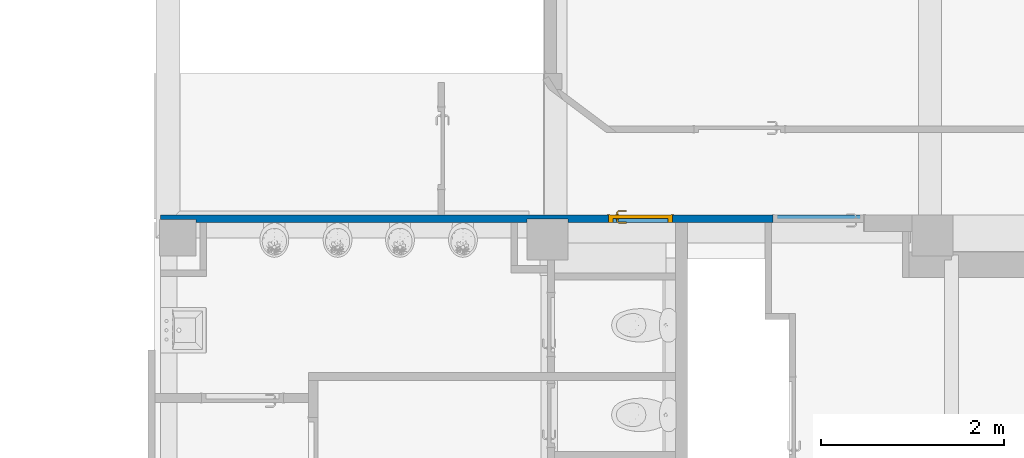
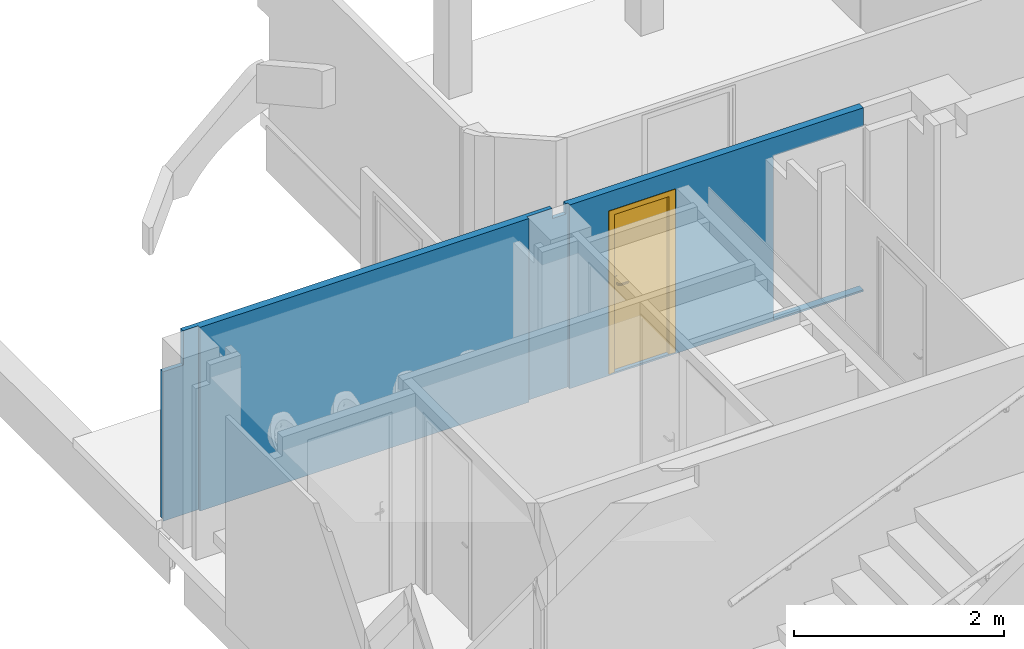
# One storey, part 17 of 32: 1 door, 1 wall, 2 openings.
"""IFC4 building model written with IfcOpenShell, lengths in metres."""

from ifc_helpers import new_model, entity, si_unit, converted_unit, derived_unit, direction, frame, origin, place, context, subcontext, project, spatial, indexed_curve, outline, extrude, polygons, source, transform, mapped, material, material_list, layer, layer_set, constituent, constituent_set, type_object, type_shapes, element, fill, save


model = new_model("IFC4")

# Units and contexts
model_context = context("Model", 3, precision=1e-05, world=origin(), true_north=direction((6.12303176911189e-17, 1.0)))
body_context = subcontext(model_context, "Body", "Model", "MODEL_VIEW")
ifc_project = project(units=[si_unit("LENGTHUNIT", "METRE"), si_unit("AREAUNIT", "SQUARE_METRE"), si_unit("VOLUMEUNIT", "CUBIC_METRE"), converted_unit("PLANEANGLEUNIT", "DEGREE", entity("IfcRatioMeasure", 0.0174532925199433), si_unit("PLANEANGLEUNIT", "RADIAN"), dimensions=[0, 0, 0, 0, 0, 0, 0]), si_unit("MASSUNIT", "GRAM", prefix="KILO"), derived_unit("MASSDENSITYUNIT", [(si_unit("MASSUNIT", "GRAM", prefix="KILO"), 1), (si_unit("LENGTHUNIT", "METRE"), -3)]), derived_unit("MOMENTOFINERTIAUNIT", [(si_unit("LENGTHUNIT", "METRE"), 4)]), si_unit("TIMEUNIT", "SECOND"), si_unit("FREQUENCYUNIT", "HERTZ"), si_unit("THERMODYNAMICTEMPERATUREUNIT", "DEGREE_CELSIUS"), derived_unit("THERMALTRANSMITTANCEUNIT", [(si_unit("MASSUNIT", "GRAM", prefix="KILO"), 1), (si_unit("THERMODYNAMICTEMPERATUREUNIT", "KELVIN"), -1), (si_unit("TIMEUNIT", "SECOND"), -3)]), derived_unit("VOLUMETRICFLOWRATEUNIT", [(si_unit("LENGTHUNIT", "METRE"), 3), (si_unit("TIMEUNIT", "SECOND"), -1)]), si_unit("ELECTRICCURRENTUNIT", "AMPERE"), si_unit("ELECTRICVOLTAGEUNIT", "VOLT"), si_unit("POWERUNIT", "WATT"), si_unit("FORCEUNIT", "NEWTON", prefix="KILO"), si_unit("ILLUMINANCEUNIT", "LUX"), si_unit("LUMINOUSFLUXUNIT", "LUMEN"), si_unit("LUMINOUSINTENSITYUNIT", "CANDELA"), derived_unit("USERDEFINED", [(si_unit("MASSUNIT", "GRAM", prefix="KILO"), -1), (si_unit("LENGTHUNIT", "METRE"), -2), (si_unit("TIMEUNIT", "SECOND"), 3), (si_unit("LUMINOUSFLUXUNIT", "LUMEN"), 1)]), derived_unit("LINEARVELOCITYUNIT", [(si_unit("LENGTHUNIT", "METRE"), 1), (si_unit("TIMEUNIT", "SECOND"), -1)]), si_unit("PRESSUREUNIT", "PASCAL"), derived_unit("USERDEFINED", [(si_unit("LENGTHUNIT", "METRE"), -2), (si_unit("MASSUNIT", "GRAM", prefix="KILO"), 1), (si_unit("TIMEUNIT", "SECOND"), -2)]), derived_unit("LINEARFORCEUNIT", [(si_unit("MASSUNIT", "GRAM", prefix="KILO"), 1), (si_unit("LENGTHUNIT", "METRE"), 1), (si_unit("TIMEUNIT", "SECOND"), -2), (si_unit("LENGTHUNIT", "METRE"), -1)]), derived_unit("PLANARFORCEUNIT", [(si_unit("MASSUNIT", "GRAM", prefix="KILO"), 1), (si_unit("LENGTHUNIT", "METRE"), 1), (si_unit("TIMEUNIT", "SECOND"), -2), (si_unit("LENGTHUNIT", "METRE"), -2)])], contexts=[model_context])

# Site, building, storey
site_placement = place(None, origin())
site = spatial("IfcSite", under=ifc_project, at=site_placement, Name="Default", CompositionType="ELEMENT")
building_placement = place(site_placement, origin())
building = spatial("IfcBuilding", under=site, at=building_placement, Name="HOTEL CONSULAIRE BOULOGNE SUR MER", CompositionType="ELEMENT")
storey_placement = place(building_placement, frame((0.0, 0.0, -2.70343668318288)))
storey = spatial("IfcBuildingStorey", under=building, at=storey_placement, Name="SS1", CompositionType="ELEMENT", Elevation=-2.70343668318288)

# Wall, openings, door
ifc_material_1 = material(Name="Mur par défaut", Category="Divers")
ifc_layer = layer(ifc_material_1, 0.08, Name="Mur par défaut", Category="Divers")
ifc_layer_set = layer_set([ifc_layer], Name="Mur de base:Générique - Int. 80")
wall_type = type_object("IfcWallType", Name="Mur de base:Générique - Int. 80", PredefinedType="NOTDEFINED", material=ifc_layer_set)
wall_placement = place(storey_placement, frame((2.23001143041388, -15.3856940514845, 0.293990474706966), z_axis=(0.0, 0.0, 1.0), x_axis=(-1.0, 0.0, 0.0)))
wall = element("IfcWall", 1, at=wall_placement, inside=storey, type_object=wall_type, material=ifc_layer_set, Name="Mur de base:Générique - Int. 80", ObjectType="Mur de base:Générique - Int. 80", PredefinedType="NOTDEFINED", context=body_context, shape_type="Tessellation", body=[
    polygons([(1.26909234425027e-15, 0.0399999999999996, 1.92500952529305), (1.86225214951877e-16, 0.0399999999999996, 2.13944620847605), (3.23383465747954, 0.0400000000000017, 2.13944620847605), (3.23383465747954, 0.0400000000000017, 0.0), (9.98375561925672e-16, 0.0399999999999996, 0.0), (9.98375561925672e-16, 0.0399999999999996, 0.0200095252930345), (0.987999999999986, 0.0400000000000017, 0.0200095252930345), (0.987999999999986, 0.0400000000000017, 1.92500952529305), (2.08923862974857, 0.0400000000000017, 0.0200095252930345), (2.78923862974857, 0.0400000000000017, 0.0200095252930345), (2.78923862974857, 0.0400000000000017, 1.90500952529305), (2.08923862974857, 0.0400000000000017, 1.90500952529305), (4.59035227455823e-16, -0.0399999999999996, 2.13944620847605), (3.25558728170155, -0.0399999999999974, 2.13944620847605), (3.25558728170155, 0.00521575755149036, 2.13944620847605), (3.23383465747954, 0.00521575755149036, 2.13944620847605), (1.00046879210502e-15, -0.0399999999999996, 1.92500952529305), (0.987999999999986, -0.0399999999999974, 1.92500952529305), (0.987999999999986, -0.0399999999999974, 0.0200095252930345), (1.00046879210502e-15, -0.0399999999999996, 0.0200095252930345), (7.29752009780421e-16, -0.0399999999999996, 0.0), (3.4894349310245, -0.0399999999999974, 0.0), (3.4894349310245, -0.0399999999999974, 0.0200000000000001), (4.58495944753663, -0.0399999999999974, 0.0200000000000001), (4.65495944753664, -0.0399999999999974, 0.0200000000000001), (7.692, -0.0399999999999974, 0.0200000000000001), (7.692, -0.0399999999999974, 1.73944620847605), (7.47034894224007, -0.0399999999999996, 1.73944620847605), (7.47034894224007, -0.0399999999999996, 2.13944620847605), (4.65495944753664, -0.0399999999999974, 2.13944620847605), (4.58495944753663, -0.0399999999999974, 2.13944620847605), (3.40558728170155, -0.0399999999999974, 2.13944620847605), (3.40558728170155, -0.0399999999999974, 2.01944620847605), (3.25558728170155, -0.0399999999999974, 2.01944620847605), (2.78923862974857, -0.0399999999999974, 0.0200095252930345), (2.08923862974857, -0.0399999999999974, 0.0200095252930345), (2.08923862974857, -0.0399999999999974, 1.90500952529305), (2.78923862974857, -0.0399999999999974, 1.90500952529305), (7.30551957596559, 0.0400000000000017, 2.13944620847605), (7.30551957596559, 0.0400000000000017, 0.0), (3.68383465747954, 0.0399999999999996, 0.0), (3.68383465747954, 0.0399999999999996, 2.13944620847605), (3.23383465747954, 0.00521575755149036, 0.0), (3.68383465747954, 0.00521575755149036, 0.0), (7.30551957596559, 0.00957223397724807, 0.0), (7.692, 0.00957223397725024, 0.0), (7.692, 0.00492898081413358, 0.0), (3.4894349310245, 0.00492898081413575, 0.0), (7.692, 0.00957223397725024, 1.73944620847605), (7.692, 0.00492898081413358, 0.0200000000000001), (7.30551957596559, 0.00957223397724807, 2.13944620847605), (3.68383465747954, 0.00521575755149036, 2.13944620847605), (3.40558728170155, 0.00521575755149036, 2.13944620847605), (7.47034894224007, 0.00957223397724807, 2.13944620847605), (7.47034894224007, 0.00957223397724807, 1.73944620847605), (3.23383465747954, 0.00521575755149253, 0.0200000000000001), (3.25558728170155, 0.00521575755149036, 2.01944620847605), (3.40558728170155, 0.00521575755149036, 2.01944620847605), (3.4894349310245, 0.00492898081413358, 0.0200000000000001)], [[[4, 5, 6, 7, 8, 1, 2, 3], [10, 11, 12, 9]], [[39, 40, 41, 42]], [[51, 54, 55, 49, 46, 45]], [[57, 58, 53, 52, 44, 43, 56, 16, 15]], [[13, 14, 15, 16, 3, 2]], [[42, 52, 53, 32, 31, 30, 29, 54, 51, 39]], [[36, 35, 10, 9]], [[6, 20, 19, 7]], [[55, 28, 27, 49]], [[58, 57, 34, 33]], [[17, 13, 2, 1]], [[21, 20, 6, 5]], [[35, 38, 11, 10]], [[7, 19, 18, 8]], [[41, 44, 52, 42]], [[53, 58, 33, 32]], [[21, 22, 23, 24, 25, 26, 27, 28, 29, 30, 31, 32, 33, 34, 14, 13, 17, 18, 19, 20], [36, 37, 38, 35]], [[59, 48, 47, 50]], [[21, 5, 4, 43, 44, 41, 40, 45, 46, 47, 48, 22]], [[38, 37, 12, 11]], [[8, 18, 17, 1]], [[25, 24, 23, 59, 50, 26]], [[27, 26, 50, 47, 46, 49]], [[37, 36, 9, 12]], [[55, 54, 29, 28]], [[40, 39, 51, 45]], [[56, 43, 4, 3, 16]], [[15, 14, 34, 57]], [[23, 22, 48, 59]]], closed=True),
])
opening_1_placement = place(wall_placement, frame((2.78923862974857, 0.0399999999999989, 0.0200095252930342)))
opening_1 = element("IfcOpeningElement", 2, at=opening_1_placement, cuts=wall, Name="Int. Simple:PP (0.63m x 1.85m):1", ObjectType="Opening", PredefinedType="OPENING", context=body_context, shape_type="SweptSolid", body=[
    extrude(outline(indexed_curve([(0.0, 0.699999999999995), (0.0, 0.0), (1.88500000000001, 0.0), (1.88500000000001, 0.699999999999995), (0.0, 0.699999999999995)], self_intersect=False)), frame((0.0, 0.0, 0.0), z_axis=(0.0, -1.0, 0.0), x_axis=(0.0, 0.0, 1.0)), (0.0, 0.0, 1.0), 0.08),
])
opening_2_placement = place(wall_placement, frame((-0.0120000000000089, -0.039999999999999, 0.0200095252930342)))
element("IfcOpeningElement", 3, at=opening_2_placement, cuts=wall, Name="Int. Simple:0.93x1.87:1", ObjectType="Opening", PredefinedType="OPENING", context=body_context, shape_type="SweptSolid", body=[
    extrude(outline(indexed_curve([(0.0, 0.999999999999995), (0.0, -3.14457543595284e-30), (1.90500000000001, -3.14457543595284e-30), (1.90500000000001, 0.999999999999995), (0.0, 0.999999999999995)], self_intersect=False)), frame((0.0, 0.0, 0.0), z_axis=(0.0, 1.0, 0.0), x_axis=(0.0, 0.0, 1.0)), (0.0, 0.0, 1.0), 0.08),
])
ifc_material_2 = material(Name="Finition Peinture - Blanc satiné", Category="Peinture")
ifc_constituent_1 = constituent(ifc_material_2, Name="Finition Peinture - Blanc satiné", Category="Matériaux")
ifc_material_3 = material(Name="Bois - Panneau de porte", Category="Bois")
ifc_constituent_2 = constituent(ifc_material_3, Name="Bois - Panneau de porte", Category="Matériaux")
ifc_material_4 = material(Name="Bois - Cadre de porte", Category="Bois")
ifc_constituent_3 = constituent(ifc_material_4, Name="Bois - Cadre de porte", Category="Matériaux")
ifc_constituent_set = constituent_set(constituents=[ifc_constituent_1, ifc_constituent_2, ifc_constituent_3], Name="MaterialConstituentSet")
ifc_material_list = material_list([ifc_material_4, ifc_material_2, ifc_material_4, ifc_material_3])
door_type = type_object("IfcDoorType", Name="Int. Simple:PP (0.63m x 1.85m)", OperationType="NOTDEFINED", PredefinedType="DOOR", material=ifc_material_list)
shared_shape = source(origin(), body_context, "Body", "Tessellation", [
    polygons([(0.695000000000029, -0.00500000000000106, 0.870000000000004), (0.695000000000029, -0.00500000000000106, 1.08), (0.68535276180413, -0.00500000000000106, 1.08399601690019), (0.675000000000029, -0.00500000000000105, 1.08535898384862), (0.664647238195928, -0.00500000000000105, 1.08399601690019), (0.65500000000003, -0.00500000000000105, 1.08), (0.655000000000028, -0.00500000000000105, 0.870000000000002), (0.664647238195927, -0.00500000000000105, 0.866003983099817), (0.675000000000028, -0.00500000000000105, 0.86464101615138), (0.685352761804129, -0.00500000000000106, 0.866003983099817), (0.695000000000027, -1.06594733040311e-15, 0.870000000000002), (0.685352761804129, -1.06594733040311e-15, 0.866003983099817), (0.675000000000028, -1.05748743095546e-15, 0.86464101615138), (0.664647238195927, -1.05748743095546e-15, 0.866003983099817), (0.655000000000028, -1.04902753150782e-15, 0.870000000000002), (0.655000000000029, -1.04902753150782e-15, 1.08), (0.664647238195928, -1.05748743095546e-15, 1.08399601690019), (0.675000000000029, -1.05748743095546e-15, 1.08535898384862), (0.68535276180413, -1.06594733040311e-15, 1.08399601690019), (0.695000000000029, -1.06594733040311e-15, 1.08)], [[[1, 2, 3, 4, 5, 6, 7, 8, 9, 10]], [[20, 11, 12, 13, 14, 15, 16, 17, 18, 19]], [[10, 12, 11, 1]], [[9, 13, 12, 10]], [[8, 14, 13, 9]], [[8, 7, 15, 14]], [[15, 7, 6, 16]], [[5, 17, 16, 6]], [[4, 18, 17, 5]], [[3, 19, 18, 4]], [[3, 2, 20, 19]], [[11, 20, 2, 1]]], closed=True),
    polygons([(0.65500000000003, 0.0399999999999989, 1.08), (0.655000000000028, 0.0399999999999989, 0.870000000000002), (0.664647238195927, 0.0399999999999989, 0.866003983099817), (0.675000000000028, 0.0399999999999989, 0.86464101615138), (0.685352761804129, 0.0399999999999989, 0.866003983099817), (0.695000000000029, 0.0399999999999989, 0.870000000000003), (0.695000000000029, 0.0399999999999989, 1.08), (0.68535276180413, 0.0399999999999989, 1.08399601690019), (0.675000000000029, 0.0399999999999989, 1.08535898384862), (0.664647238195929, 0.0399999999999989, 1.08399601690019), (0.65500000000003, 0.0449999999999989, 1.08), (0.664647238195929, 0.0449999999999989, 1.08399601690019), (0.675000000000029, 0.0449999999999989, 1.08535898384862), (0.68535276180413, 0.0449999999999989, 1.08399601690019), (0.695000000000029, 0.0449999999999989, 1.08), (0.695000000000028, 0.0449999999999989, 0.870000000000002), (0.685352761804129, 0.0449999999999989, 0.866003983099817), (0.675000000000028, 0.0449999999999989, 0.86464101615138), (0.664647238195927, 0.0449999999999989, 0.866003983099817), (0.655000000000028, 0.0449999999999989, 0.870000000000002)], [[[6, 7, 8, 9, 10, 1, 2, 3, 4, 5]], [[13, 14, 15, 16, 17, 18, 19, 20, 11, 12]], [[10, 12, 11, 1]], [[9, 13, 12, 10]], [[8, 14, 13, 9]], [[8, 7, 15, 14]], [[16, 15, 7, 6]], [[5, 17, 16, 6]], [[4, 18, 17, 5]], [[3, 19, 18, 4]], [[3, 2, 20, 19]], [[20, 2, 1, 11]]], closed=True),
    polygons([(0.681000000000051, -0.00500000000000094, 1.00699999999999), (0.68100000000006, -0.00500000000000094, 0.992999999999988), (0.677025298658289, -0.00500000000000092, 0.99221955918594), (0.67297470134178, -0.0050000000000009, 0.992219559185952), (0.669000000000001, -0.00500000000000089, 0.993000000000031), (0.669000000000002, -0.00500000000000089, 1.007), (0.672974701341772, -0.0050000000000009, 1.00778044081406), (0.677025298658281, -0.00500000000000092, 1.00778044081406), (0.669000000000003, -0.0276803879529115, 1.007), (0.672974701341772, -0.0293267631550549, 1.00778044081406), (0.677025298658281, -0.0310045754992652, 1.00778044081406), (0.681000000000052, -0.0326509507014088, 1.007), (0.669000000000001, -0.0276803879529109, 0.993000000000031), (0.68100000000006, -0.0326509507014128, 0.992999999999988), (0.677025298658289, -0.0310045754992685, 0.99221955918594), (0.67297470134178, -0.0293267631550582, 0.992219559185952), (0.657652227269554, -0.0390281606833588, 1.007), (0.659298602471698, -0.0430028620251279, 1.00778044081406), (0.660976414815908, -0.0470534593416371, 1.00778044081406), (0.662622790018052, -0.0510281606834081, 1.007), (0.657652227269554, -0.0390281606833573, 0.993000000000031), (0.662622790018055, -0.0510281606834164, 0.992999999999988), (0.660976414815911, -0.047053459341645, 0.99221955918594), (0.659298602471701, -0.0430028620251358, 0.992219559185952), (0.574981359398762, -0.0510281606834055, 1.007), (0.574981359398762, -0.0470534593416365, 1.00778044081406), (0.574981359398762, -0.0430028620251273, 1.00778044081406), (0.574981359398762, -0.0390281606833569, 1.00699999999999), (0.574981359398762, -0.0390281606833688, 0.993000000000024), (0.574981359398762, -0.0430028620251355, 0.992219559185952), (0.574981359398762, -0.0470534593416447, 0.99221955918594), (0.574981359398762, -0.0510281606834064, 0.992999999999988), (0.622692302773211, -0.051028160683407, 1.007), (0.617139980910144, -0.045028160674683, 1.0078786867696), (0.616316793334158, -0.039028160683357, 1.007), (0.622692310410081, -0.0510281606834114, 0.992999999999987), (0.617139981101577, -0.0450281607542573, 0.992121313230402), (0.61631679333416, -0.039028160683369, 0.993000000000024)], [[[7, 8, 1, 2, 3, 4, 5, 6]], [[17, 21, 38, 29, 28, 35]], [[1, 8, 11, 12]], [[8, 7, 10, 18, 19, 11]], [[7, 6, 9, 10]], [[13, 9, 6, 5]], [[25, 26, 27, 28, 29, 30, 31, 32]], [[4, 16, 13, 5]], [[4, 3, 15, 23, 24, 16]], [[2, 14, 15, 3]], [[12, 14, 2, 1]], [[12, 11, 19, 20]], [[10, 9, 17, 18]], [[21, 17, 9, 13]], [[13, 16, 24, 21]], [[15, 14, 22, 23]], [[20, 22, 14, 12]], [[34, 26, 33]], [[33, 26, 25]], [[33, 20, 19]], [[18, 35, 34]], [[35, 18, 17]], [[28, 27, 35]], [[34, 27, 26]], [[34, 35, 27]], [[34, 33, 19]], [[18, 34, 19]], [[37, 30, 38]], [[31, 37, 36]], [[24, 38, 21]], [[30, 29, 38]], [[31, 36, 32]], [[36, 23, 22]], [[37, 23, 36]], [[37, 24, 23]], [[37, 38, 24]], [[30, 37, 31]], [[22, 20, 33, 25, 32, 36]]], closed=True),
    polygons([(0.66900000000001, 0.0449999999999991, 0.993000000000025), (0.672974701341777, 0.0449999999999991, 0.992219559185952), (0.677025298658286, 0.0449999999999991, 0.99221955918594), (0.681000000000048, 0.044999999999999, 0.992999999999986), (0.681000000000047, 0.044999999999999, 1.007), (0.677025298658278, 0.0449999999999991, 1.00778044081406), (0.672974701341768, 0.0449999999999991, 1.00778044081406), (0.668999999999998, 0.0449999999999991, 1.007), (0.668999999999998, 0.067485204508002, 1.007), (0.668999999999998, 0.0674852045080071, 0.993000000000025), (0.681000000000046, 0.0724557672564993, 1.007), (0.677025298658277, 0.070809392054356, 1.00778044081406), (0.672974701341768, 0.0691315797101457, 1.00778044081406), (0.681000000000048, 0.0724557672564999, 0.992999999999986), (0.672974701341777, 0.0691315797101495, 0.992219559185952), (0.677025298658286, 0.0708093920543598, 0.99221955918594), (0.65751471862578, 0.0789704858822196, 1.007), (0.657514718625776, 0.0789704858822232, 0.993000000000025), (0.662485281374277, 0.0909704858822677, 1.007), (0.660838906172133, 0.0869957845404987, 1.00778044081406), (0.659161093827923, 0.0829451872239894, 1.00778044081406), (0.662485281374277, 0.0909704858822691, 0.992999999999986), (0.659161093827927, 0.0829451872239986, 0.992219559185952), (0.660838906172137, 0.0869957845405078, 0.99221955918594), (0.574954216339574, 0.0789704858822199, 0.993000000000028), (0.574954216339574, 0.0789704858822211, 1.007), (0.574954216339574, 0.0829451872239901, 1.00778044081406), (0.574954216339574, 0.0869957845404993, 1.00778044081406), (0.574954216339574, 0.0909704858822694, 1.007), (0.574954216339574, 0.0909704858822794, 0.992999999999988), (0.574954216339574, 0.086995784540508, 0.99221955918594), (0.574954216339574, 0.0829451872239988, 0.992219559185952), (0.62255479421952, 0.0909704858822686, 1.007), (0.617057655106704, 0.0849704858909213, 1.0078786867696), (0.616234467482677, 0.0789704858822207, 1.007), (0.622554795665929, 0.0909704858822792, 0.992999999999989), (0.617057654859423, 0.0849704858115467, 0.992121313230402), (0.616234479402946, 0.0789704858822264, 0.993000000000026)], [[[2, 3, 4, 5, 6, 7, 8, 1]], [[18, 17, 35, 26, 25, 38]], [[9, 10, 1, 8]], [[27, 28, 29, 30, 31, 32, 25, 26]], [[7, 13, 9, 8]], [[7, 6, 12, 20, 21, 13]], [[5, 11, 12, 6]], [[11, 5, 4, 14]], [[4, 3, 16, 14]], [[3, 2, 15, 23, 24, 16]], [[2, 1, 10, 15]], [[17, 18, 10, 9]], [[9, 13, 21, 17]], [[11, 19, 20, 12]], [[22, 19, 11, 14]], [[14, 16, 24, 22]], [[15, 10, 18, 23]], [[34, 27, 35]], [[28, 34, 33]], [[21, 35, 17]], [[27, 26, 35]], [[28, 33, 29]], [[33, 20, 19]], [[34, 20, 33]], [[34, 21, 20]], [[34, 35, 21]], [[27, 34, 28]], [[19, 22, 36, 30, 29, 33]], [[37, 31, 36]], [[36, 31, 30]], [[36, 22, 24]], [[23, 38, 37]], [[38, 23, 18]], [[25, 32, 38]], [[37, 32, 31]], [[37, 38, 32]], [[37, 36, 24]], [[23, 37, 24]]], closed=True),
    polygons([(0.735000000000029, 0.0400000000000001, 1.85), (0.735000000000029, 0.0400000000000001, 0.0), (0.105000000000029, 0.0400000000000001, 0.0), (0.105000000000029, 0.0400000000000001, 1.85), (0.735000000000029, 6.76791955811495e-17, 1.85), (0.105000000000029, 6.76791955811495e-17, 1.85), (0.105000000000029, 6.76791955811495e-17, 0.0), (0.735000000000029, 6.76791955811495e-17, 0.0)], [[[4, 1, 2, 3]], [[5, 6, 7, 8]], [[5, 1, 4, 6]], [[6, 4, 3, 7]], [[7, 3, 2, 8]], [[8, 2, 1, 5]]], closed=True),
    polygons([(0.770000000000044, -8.45989944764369e-18, 0.0), (0.735000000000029, -8.45989944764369e-18, 0.0), (0.735000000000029, 0.0400000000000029, 0.0), (0.720000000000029, 0.0400000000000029, 0.0), (0.720000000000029, 0.080000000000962, 0.0), (0.770000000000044, 0.080000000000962, 0.0), (0.770000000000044, 0.080000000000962, 1.88500000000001), (0.770000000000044, -8.45989944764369e-18, 1.88500000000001), (0.720000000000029, 0.080000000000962, 1.835), (0.120000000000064, 0.080000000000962, 1.835), (0.120000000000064, 0.080000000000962, 0.0), (0.0700000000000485, 0.080000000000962, 0.0), (0.0700000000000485, 0.080000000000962, 1.88500000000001), (0.720000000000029, 0.0400000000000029, 1.835), (0.735000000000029, 0.0400000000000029, 1.85), (0.105000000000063, 0.0400000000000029, 1.85), (0.105000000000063, 0.0400000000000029, 0.0), (0.120000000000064, 0.0400000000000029, -4.03399441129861e-24), (0.120000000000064, 0.0400000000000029, 1.835), (0.735000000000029, -8.45989944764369e-18, 1.85), (0.0700000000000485, -8.45989944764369e-18, 1.88500000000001), (0.0700000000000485, -8.45989944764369e-18, -2.18060632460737e-26), (0.105000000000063, -8.45989944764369e-18, -3.2053913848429e-24), (0.105000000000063, -8.45989944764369e-18, 1.85)], [[[5, 6, 1, 2, 3, 4]], [[17, 23, 22, 12, 11, 18]], [[19, 10, 9, 14]], [[16, 15, 20, 24]], [[8, 1, 6, 7]], [[18, 11, 10, 19]], [[17, 16, 24, 23]], [[9, 10, 11, 12, 13, 7, 6, 5]], [[14, 9, 5, 4]], [[20, 15, 3, 2]], [[22, 21, 13, 12]], [[19, 14, 4, 3, 15, 16, 17, 18]], [[24, 20, 2, 1, 8, 21, 22, 23]], [[13, 21, 8, 7]]], closed=True),
    polygons([(0.755000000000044, 0.080000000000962, 0.0), (0.755000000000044, 0.085000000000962, 0.0), (0.785000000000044, 0.085000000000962, 0.0), (0.785000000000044, 0.080000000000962, 0.0), (0.785000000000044, 0.080000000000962, 1.90000000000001), (0.0550000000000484, 0.080000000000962, 1.90000000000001), (0.0550000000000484, 0.080000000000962, 1.14332428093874e-24), (0.0850000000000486, 0.080000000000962, 3.45154263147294e-25), (0.0850000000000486, 0.080000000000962, 1.87000000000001), (0.755000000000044, 0.080000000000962, 1.87000000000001), (0.785000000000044, 0.085000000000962, 1.90000000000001), (0.755000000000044, 0.085000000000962, 1.87000000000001), (0.0850000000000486, 0.085000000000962, 1.87000000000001), (0.0850000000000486, 0.085000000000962, 1.69852429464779e-24), (0.0550000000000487, 0.085000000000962, -8.0255253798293e-24), (0.0550000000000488, 0.085000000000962, 1.90000000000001)], [[[2, 3, 4, 1]], [[8, 7, 15, 14]], [[9, 13, 12, 10]], [[9, 10, 1, 4, 5, 6, 7, 8]], [[5, 4, 3, 11]], [[14, 13, 9, 8]], [[12, 13, 14, 15, 16, 11, 3, 2]], [[10, 12, 2, 1]], [[7, 6, 16, 15]], [[6, 5, 11, 16]]], closed=True),
    polygons([(0.755000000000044, -0.00499999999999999, 0.0), (0.755000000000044, -8.45989944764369e-18, 0.0), (0.785000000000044, -8.45989944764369e-18, 0.0), (0.785000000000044, -0.00499999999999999, 0.0), (0.0850000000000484, -0.00499999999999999, -1.35358391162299e-16), (0.0550000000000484, -0.00499999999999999, -1.35358391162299e-16), (0.0550000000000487, -8.45989944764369e-18, -1.35358391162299e-16), (0.0850000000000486, -8.45989944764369e-18, -1.35358391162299e-16), (0.785000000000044, -0.00499999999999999, 1.90000000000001), (0.0550000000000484, -0.00499999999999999, 1.90000000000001), (0.0850000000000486, -0.00499999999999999, 1.87000000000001), (0.755000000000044, -0.00499999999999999, 1.87000000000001), (0.785000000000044, -8.45989944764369e-18, 1.90000000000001), (0.755000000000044, -8.45989944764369e-18, 1.87000000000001), (0.0850000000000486, -8.45989944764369e-18, 1.87000000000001), (0.0550000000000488, -8.45989944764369e-18, 1.90000000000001)], [[[2, 3, 4, 1]], [[5, 6, 7, 8]], [[15, 14, 12, 11]], [[11, 12, 1, 4, 9, 10, 6, 5]], [[9, 4, 3, 13]], [[5, 8, 15, 11]], [[14, 15, 8, 7, 16, 13, 3, 2]], [[12, 14, 2, 1]], [[6, 10, 16, 7]], [[10, 9, 13, 16]]], closed=True),
])
type_shapes(door_type, [shared_shape])
door_placement = place(opening_1_placement, frame((-0.770000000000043, -0.0800000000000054, 0.0)))
door = element("IfcDoor", 4, at=door_placement, inside=storey, type_object=door_type, material=ifc_constituent_set, Name="Int. Simple:PP (0.63m x 1.85m)", ObjectType="Int. Simple:PP (0.63m x 1.85m)", OperationType="NOTDEFINED", OverallHeight=1.88500000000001, OverallWidth=0.699999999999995, PredefinedType="DOOR", context=body_context, shape_type="MappedRepresentation", body=[
    mapped(shared_shape, transform((0.0, 0.0, 0.0), scale=1.0)),
])
fill(opening_1, door)

save(model, "model.ifc")
